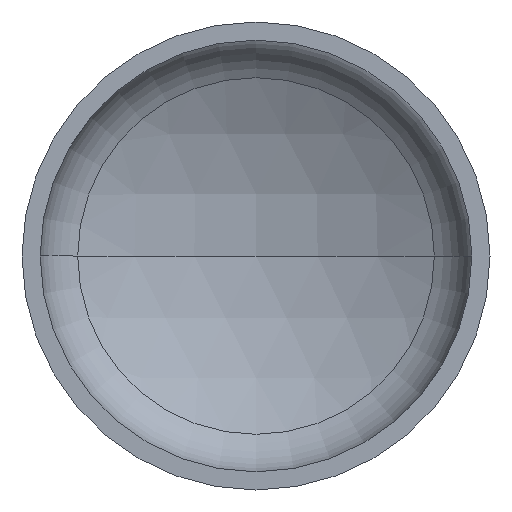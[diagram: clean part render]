
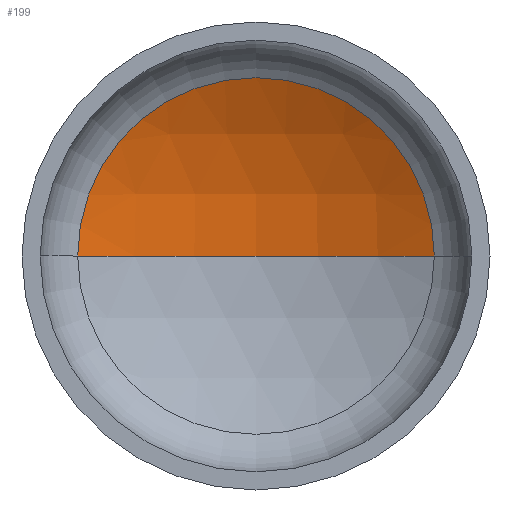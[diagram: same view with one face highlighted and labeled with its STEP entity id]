
A CAD part, front view. The second image highlights one B-rep face of the part: STEP entity #199.
In plain terms, the highlighted spherical face has radius 1360 mm.
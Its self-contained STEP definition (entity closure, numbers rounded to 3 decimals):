
#5 = ORIENTED_EDGE ( 'NONE', *, *, #351, .F. ) ;
#10 = AXIS2_PLACEMENT_3D ( 'NONE', #365, #232, #382 ) ;
#12 = CIRCLE ( 'NONE', #45, 647.855 ) ;
#13 = AXIS2_PLACEMENT_3D ( 'NONE', #231, #275, #385 ) ;
#22 = EDGE_LOOP ( 'NONE', ( #5, #42, #148 ) ) ;
#32 = AXIS2_PLACEMENT_3D ( 'NONE', #205, #189, #270 ) ;
#42 = ORIENTED_EDGE ( 'NONE', *, *, #349, .T. ) ;
#45 = AXIS2_PLACEMENT_3D ( 'NONE', #388, #342, #182 ) ;
#91 = VERTEX_POINT ( 'NONE', #239 ) ;
#116 = VERTEX_POINT ( 'NONE', #198 ) ;
#127 = EDGE_CURVE ( 'NONE', #91, #116, #12, .T. ) ;
#148 = ORIENTED_EDGE ( 'NONE', *, *, #127, .T. ) ;
#182 = DIRECTION ( 'NONE',  ( 1., 0., 0. ) ) ;
#189 = DIRECTION ( 'NONE',  ( 0., 0., -1. ) ) ;
#198 = CARTESIAN_POINT ( 'NONE',  ( -647.855, 348.605, 0. ) ) ;
#199 = ADVANCED_FACE ( 'NONE', ( #406 ), #295, .F. ) ;
#205 = CARTESIAN_POINT ( 'NONE',  ( 0., -847.173, 0. ) ) ;
#211 = CIRCLE ( 'NONE', #13, 1360. ) ;
#231 = CARTESIAN_POINT ( 'NONE',  ( 0., -847.173, 0. ) ) ;
#232 = DIRECTION ( 'NONE',  ( 0., 0., -1. ) ) ;
#239 = CARTESIAN_POINT ( 'NONE',  ( 647.855, 348.605, 0. ) ) ;
#270 = DIRECTION ( 'NONE',  ( -1., 0., 0. ) ) ;
#275 = DIRECTION ( 'NONE',  ( 0., 0., 1. ) ) ;
#295 = SPHERICAL_SURFACE ( 'NONE', #32, 1360. ) ;
#334 = CIRCLE ( 'NONE', #10, 1360. ) ;
#342 = DIRECTION ( 'NONE',  ( 0., -1., 0. ) ) ;
#349 = EDGE_CURVE ( 'NONE', #384, #91, #334, .T. ) ;
#350 = CARTESIAN_POINT ( 'NONE',  ( 0., 512.827, 0. ) ) ;
#351 = EDGE_CURVE ( 'NONE', #384, #116, #211, .T. ) ;
#365 = CARTESIAN_POINT ( 'NONE',  ( 0., -847.173, 0. ) ) ;
#382 = DIRECTION ( 'NONE',  ( -1., 0., 0. ) ) ;
#384 = VERTEX_POINT ( 'NONE', #350 ) ;
#385 = DIRECTION ( 'NONE',  ( 1., 0., 0. ) ) ;
#388 = CARTESIAN_POINT ( 'NONE',  ( 0., 348.605, 0. ) ) ;
#406 = FACE_OUTER_BOUND ( 'NONE', #22, .T. ) ;
